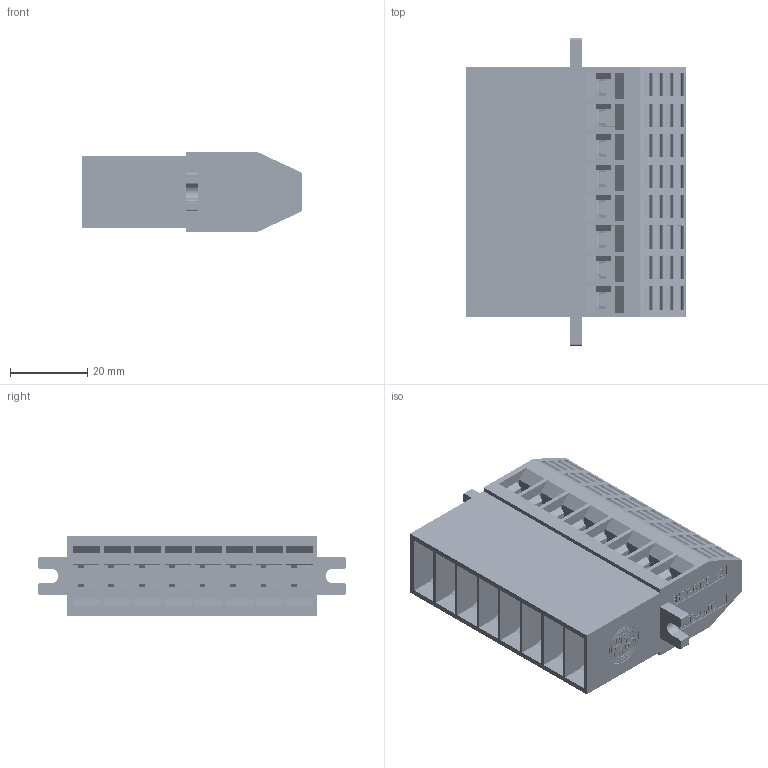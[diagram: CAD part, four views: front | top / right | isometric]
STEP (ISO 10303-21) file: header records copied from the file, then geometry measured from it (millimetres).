
FILE_DESCRIPTION(('STEP AP214'), '1');
FILE_NAME('栖闉罻 (8) 麧蠉錪', '2024-05-03T05:50:45', (''), (''), 'ASCON STEP Converter 1.6', 'ASCON Math Kernel', '');
FILE_SCHEMA(('AUTOMOTIVE_DESIGN { 1 0 10303 214 3 1 1}'));
Length unit declared in the file: millimetre
Bounding box: 57 x 79.8 x 21 mm (x, y, z)
Volume: 37196.5 mm3; surface area: 40893.9 mm2
Topology: 33 solids, 33 shells, 12877 faces, 36984 edges, 24502 vertices
Faces by surface type: plane 6466, cylinder 6323, bspline 64, torus 16, sphere 8
Full cylindrical faces by diameter (mm): 1 x16, 3 x16, 5.6 x8, 11.4 x8
Entity records: 530583 total; most frequent: CARTESIAN_POINT 77652, DIRECTION 75225, ORIENTED_EDGE 73824, EDGE_CURVE 36912, AXIS2_PLACEMENT_3D 25635, VERTEX_POINT 24502, LINE 23955, VECTOR 23955
